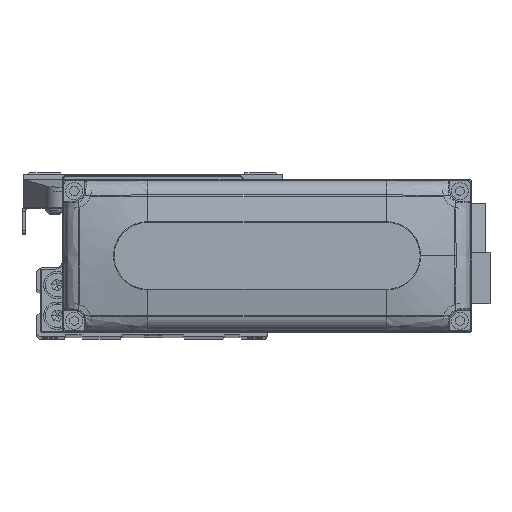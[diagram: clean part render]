
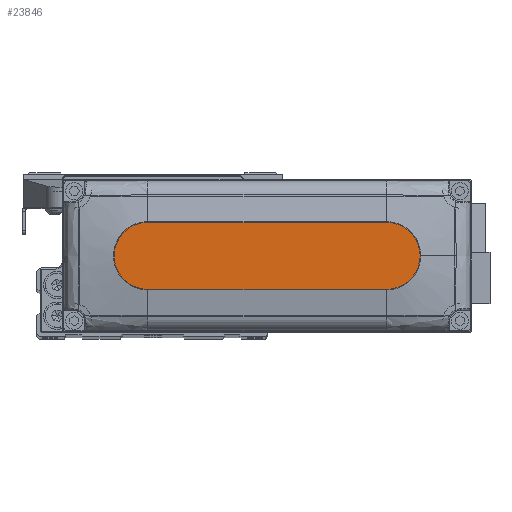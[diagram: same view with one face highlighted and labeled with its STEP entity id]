
A CAD part, top view. The second image highlights one B-rep face of the part: STEP entity #23846.
In plain terms, the highlighted planar face has unit normal (0, 0, 1).
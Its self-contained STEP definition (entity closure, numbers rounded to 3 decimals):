
#60 = CARTESIAN_POINT ( 'NONE',  ( -35., 10., 28. ) ) ;
#285 = DIRECTION ( 'NONE',  ( 0., 0., 1. ) ) ;
#379 = CARTESIAN_POINT ( 'NONE',  ( -35., -10., 28. ) ) ;
#2015 = CIRCLE ( 'NONE', #27144, 10. ) ;
#2452 = CARTESIAN_POINT ( 'NONE',  ( 35., -10., 28. ) ) ;
#3671 = FACE_OUTER_BOUND ( 'NONE', #13054, .T. ) ;
#3960 = ORIENTED_EDGE ( 'NONE', *, *, #42039, .T. ) ;
#5650 = VERTEX_POINT ( 'NONE', #19902 ) ;
#8690 = ORIENTED_EDGE ( 'NONE', *, *, #28818, .T. ) ;
#8693 = CIRCLE ( 'NONE', #33834, 10. ) ;
#8912 = CARTESIAN_POINT ( 'NONE',  ( 45., 0., 28. ) ) ;
#9231 = VECTOR ( 'NONE', #14123, 1000. ) ;
#9594 = CARTESIAN_POINT ( 'NONE',  ( -35., 0., 28. ) ) ;
#9729 = VERTEX_POINT ( 'NONE', #8912 ) ;
#10120 = CARTESIAN_POINT ( 'NONE',  ( 35., 0., 28. ) ) ;
#11040 = DIRECTION ( 'NONE',  ( 1., 0., 0. ) ) ;
#13054 = EDGE_LOOP ( 'NONE', ( #8690, #3960, #13445, #24914, #38197 ) ) ;
#13445 = ORIENTED_EDGE ( 'NONE', *, *, #36855, .T. ) ;
#13800 = DIRECTION ( 'NONE',  ( -1., 0., 0. ) ) ;
#14031 = DIRECTION ( 'NONE',  ( 1., 0., 0. ) ) ;
#14123 = DIRECTION ( 'NONE',  ( 1., 0., 0. ) ) ;
#16557 = CIRCLE ( 'NONE', #22287, 10. ) ;
#17413 = PLANE ( 'NONE',  #28063 ) ;
#19902 = CARTESIAN_POINT ( 'NONE',  ( 35., 10., 28. ) ) ;
#22287 = AXIS2_PLACEMENT_3D ( 'NONE', #9594, #23319, #37051 ) ;
#23311 = VERTEX_POINT ( 'NONE', #2452 ) ;
#23319 = DIRECTION ( 'NONE',  ( 0., 0., 1. ) ) ;
#23777 = CARTESIAN_POINT ( 'NONE',  ( -35., -10., 28. ) ) ;
#23833 = DIRECTION ( 'NONE',  ( 0., 0., 1. ) ) ;
#23846 = ADVANCED_FACE ( 'NONE', ( #3671 ), #17413, .T. ) ;
#24914 = ORIENTED_EDGE ( 'NONE', *, *, #36283, .T. ) ;
#25358 = VERTEX_POINT ( 'NONE', #40962 ) ;
#25794 = EDGE_CURVE ( 'NONE', #9729, #5650, #8693, .T. ) ;
#26537 = VERTEX_POINT ( 'NONE', #23777 ) ;
#27144 = AXIS2_PLACEMENT_3D ( 'NONE', #10120, #23833, #37552 ) ;
#28063 = AXIS2_PLACEMENT_3D ( 'NONE', #31115, #285, #14031 ) ;
#28155 = CARTESIAN_POINT ( 'NONE',  ( 35., 0., 28. ) ) ;
#28818 = EDGE_CURVE ( 'NONE', #5650, #25358, #30893, .T. ) ;
#30893 = LINE ( 'NONE', #60, #41327 ) ;
#31115 = CARTESIAN_POINT ( 'NONE',  ( 0., 0., 28. ) ) ;
#31194 = LINE ( 'NONE', #379, #9231 ) ;
#33834 = AXIS2_PLACEMENT_3D ( 'NONE', #28155, #41850, #11040 ) ;
#36283 = EDGE_CURVE ( 'NONE', #23311, #9729, #2015, .T. ) ;
#36855 = EDGE_CURVE ( 'NONE', #26537, #23311, #31194, .T. ) ;
#37051 = DIRECTION ( 'NONE',  ( 1., 0., 0. ) ) ;
#37552 = DIRECTION ( 'NONE',  ( 1., 0., 0. ) ) ;
#38197 = ORIENTED_EDGE ( 'NONE', *, *, #25794, .T. ) ;
#40962 = CARTESIAN_POINT ( 'NONE',  ( -35., 10., 28. ) ) ;
#41327 = VECTOR ( 'NONE', #13800, 1000. ) ;
#41850 = DIRECTION ( 'NONE',  ( 0., 0., 1. ) ) ;
#42039 = EDGE_CURVE ( 'NONE', #25358, #26537, #16557, .T. ) ;
